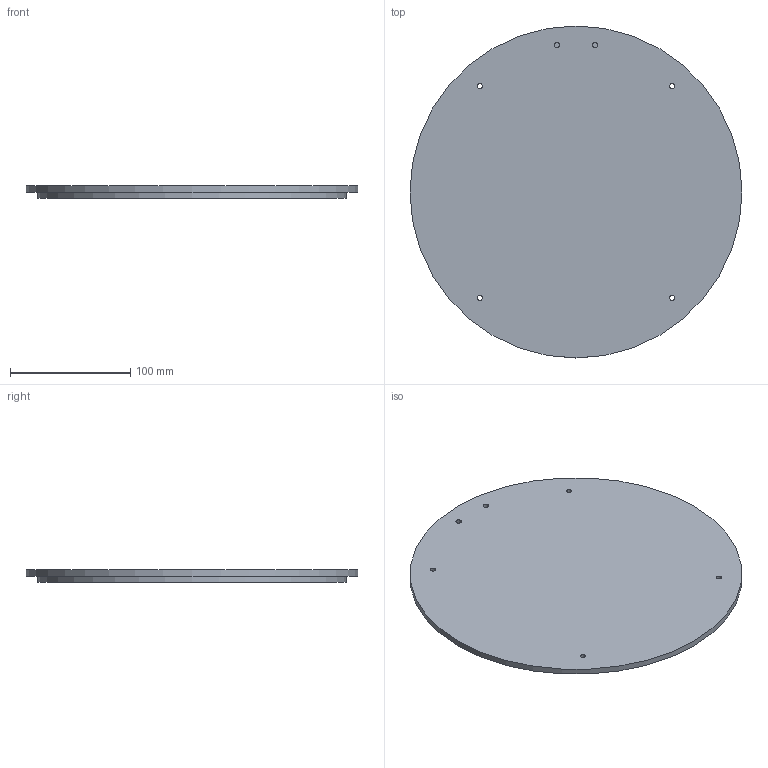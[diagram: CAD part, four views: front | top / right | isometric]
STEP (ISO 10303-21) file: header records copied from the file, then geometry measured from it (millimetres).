
FILE_DESCRIPTION(('FreeCAD Model'),'2;1');
FILE_NAME('Open CASCADE Shape Model','2026-10-14T02:29:14',('FreeCAD'),( 'FreeCAD'),'Open CASCADE STEP processor 7.8','FreeCAD','Unknown');
FILE_SCHEMA(('AUTOMOTIVE_DESIGN { 1 0 10303 214 1 1 1 1 }'));
Length unit declared in the file: millimetre
Products named in the file (1): Open CASCADE STEP translator 7.8 75
Bounding box: 276 x 276 x 10 mm (x, y, z)
Volume: 310867.1 mm3; surface area: 132328.5 mm2
Topology: 1 solids, 1 shells, 19 faces, 43 edges, 30 vertices
Faces by surface type: cylinder 11, plane 8
Full cylindrical faces by diameter (mm): 4.2 x4, 4.5 x2, 250.4 x1, 256.4 x1, 276 x1
Entity records: 585 total; most frequent: DIRECTION 113, CARTESIAN_POINT 93, ORIENTED_EDGE 86, AXIS2_PLACEMENT_3D 50, EDGE_CURVE 43, FACE_BOUND 31, EDGE_LOOP 31, VERTEX_POINT 30
